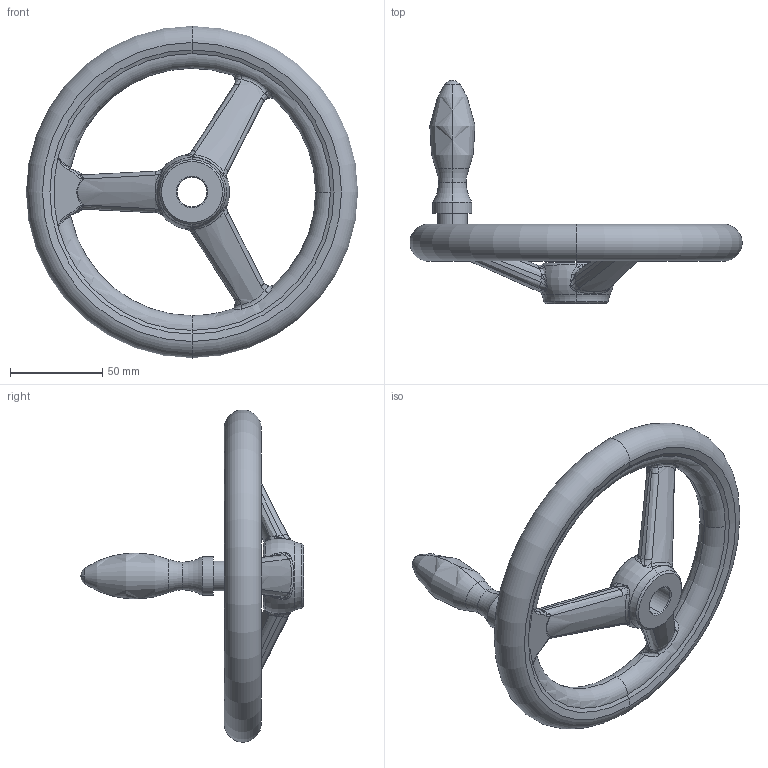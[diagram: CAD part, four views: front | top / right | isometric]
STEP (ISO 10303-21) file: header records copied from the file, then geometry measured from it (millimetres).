
FILE_DESCRIPTION (( 'STEP AP203' ), '1' );
FILE_NAME ('din950_f4_180x16.step', '2010-03-23T10:32:11', ( '_' ), ( '_' ), 'SwSTEP 2.0', 'SolidWorks 2010', '' );
FILE_SCHEMA (( 'CONFIG_CONTROL_DESIGN' ));
Length unit declared in the file: millimetre
Products named in the file (1): din950_f4_180x16
Bounding box: 179.93 x 121 x 179.93 mm (x, y, z)
Volume: 251587.8 mm3; surface area: 50894.9 mm2
Topology: 1 solids, 1 shells, 199 faces, 490 edges, 262 vertices
Faces by surface type: bspline 130, torus 27, cone 17, plane 12, cylinder 11, sphere 2
Entity records: 26619 total; most frequent: CARTESIAN_POINT 22794, ORIENTED_EDGE 928, DIRECTION 543, EDGE_CURVE 464, VERTEX_POINT 262, AXIS2_PLACEMENT_3D 258, B_SPLINE_CURVE_WITH_KNOTS 245, EDGE_LOOP 202
